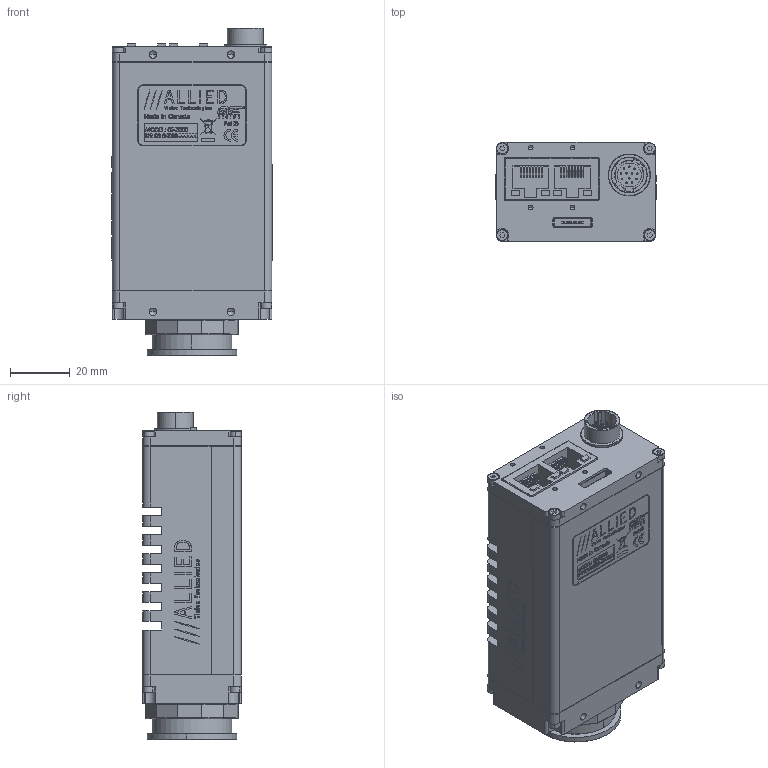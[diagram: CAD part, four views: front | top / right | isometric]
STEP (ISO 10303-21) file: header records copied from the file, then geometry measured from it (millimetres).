
FILE_DESCRIPTION (( 'STEP AP214' ), '1' );
FILE_NAME ('02-2408-GX3300 CMOUNT_NEW.STEP', '2013-07-29T23:13:16', ( '' ), ( '' ), 'SwSTEP 2.0', 'SolidWorks 2013', '' );
FILE_SCHEMA (( 'AUTOMOTIVE_DESIGN' ));
Length unit declared in the file: millimetre
Products named in the file (23): 100172B - GX BODY ASSY-THERMAL; 110100B-GX TOP COVER-THERMAL_Finished; 200114A-GX MAIN PCBA; 260043-HALO HFJ12-1G16ER-L12RL; 110099B-GX BOTTOM COVER-THERMAL_Finished; 200115A-GX POWER PCBA; 260048-HIROSE 3260-8S3; 100171A - GX BACK ASSY; 740116B-GX3300 THERMAL LABEL PRINT; 110097A-GX BACK PLATE; 100173A - GX3300 FRONT ASSY CMOUNT; 260034-HIROSE HR10A-10R-12PB; 110109A-GX FRONT PLATE LF; 140061-SCREW SKT CAP M2x8 SS; 110103A-GX CCD GASKET; 140004-LOW COST C-MOUNT CAP; 02-2408-GX3300 CMOUNT_NEW; 110003AC-CV CMOUNT RING; 110031A-B EC-CCD LOCKING RING; 220177-KODAK KAI-08050-ABA; KAI-08050 BODY; KAI-08050 WINDOW; 740102B-GX SERIES LABEL
Assembly tree (29 placements, depth 4):
  02-2408-GX3300 CMOUNT_NEW
    140061-SCREW SKT CAP M2x8 SS  x4
    100172B - GX BODY ASSY-THERMAL
      140061-SCREW SKT CAP M2x8 SS  x4
      100171A - GX BACK ASSY
        260034-HIROSE HR10A-10R-12PB
        110097A-GX BACK PLATE
      200115A-GX POWER PCBA
        260048-HIROSE 3260-8S3
      110099B-GX BOTTOM COVER-THERMAL_Finished
      200114A-GX MAIN PCBA
        260043-HALO HFJ12-1G16ER-L12RL
      110100B-GX TOP COVER-THERMAL_Finished
    740102B-GX SERIES LABEL
    100173A - GX3300 FRONT ASSY CMOUNT
      220177-KODAK KAI-08050-ABA
        KAI-08050 WINDOW
        KAI-08050 BODY
      110031A-B EC-CCD LOCKING RING
      110003AC-CV CMOUNT RING
      140004-LOW COST C-MOUNT CAP
      110103A-GX CCD GASKET
      110109A-GX FRONT PLATE LF
    740116B-GX3300 THERMAL LABEL PRINT
Bounding box: 53.39 x 33.02 x 109.4 mm (x, y, z)
Volume: 83606.1 mm3; surface area: 75167.6 mm2
Topology: 67 solids, 67 shells, 4105 faces, 10644 edges, 6926 vertices
Faces by surface type: plane 2212, bspline 929, cylinder 706, cone 258
Entity records: 200354 total; most frequent: CARTESIAN_POINT 62970, ORIENTED_EDGE 20520, DIRECTION 16142, EDGE_CURVE 10260, LINE 6870, VECTOR 6870, VERTEX_POINT 6758, AXIS2_PLACEMENT_3D 4636
